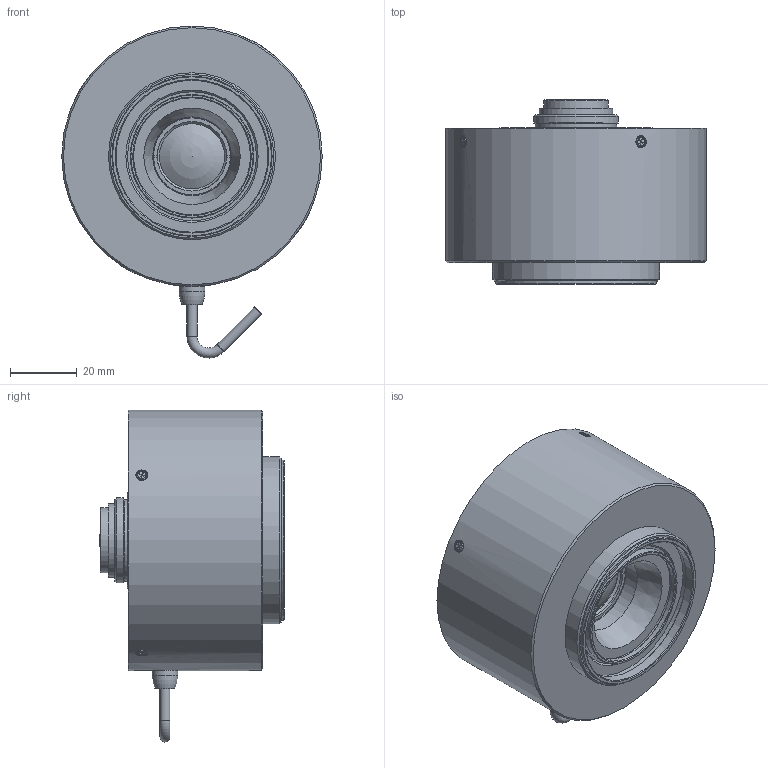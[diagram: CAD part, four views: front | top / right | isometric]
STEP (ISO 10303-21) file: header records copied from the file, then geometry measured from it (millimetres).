
FILE_DESCRIPTION(/* description */ ('Unknown'),/* implementation_level */ '2;1');
FILE_NAME(/* name */ 'VL2520U-MPZ_210607',/* time_stamp */ '2021-06-07T14:59:43+09:00',/* author */ ('Unknown'),/* organization */ ('Unknown'),/* preprocessor_version */ 'ST-DEVELOPER v16.7',/* originating_system */ 'DEX',/* authorisation */ $);
FILE_SCHEMA (('AUTOMOTIVE_DESIGN {1 0 10303 214 3 1 1}'));
Length unit declared in the file: millimetre
Products named in the file (1): VL2520U-MPZ
Bounding box: 78 x 55.34 x 99.4 mm (x, y, z)
Volume: 194716.6 mm3; surface area: 24115.3 mm2
Topology: 1 solids, 14 shells, 413 faces, 1014 edges, 669 vertices
Faces by surface type: plane 284, cylinder 79, cone 37, torus 11, sphere 2
Full cylindrical faces by diameter (mm): 1.7 x3, 1.8 x3, 2 x9, 2.2 x9, 3 x14, 3.5 x3, 3.6 x5, 4 x4, 7.699 x1, 17.25 x1, 19.4 x1, 19.5 x1, 20.8 x1, 22 x1, 23.7 x1, 24.4 x1, 25.4 x1, 35 x1, 35.5 x1, 37 x1, 45.5 x1, 46 x3, 48 x1, 50 x1, 78 x1
Entity records: 14153 total; most frequent: CARTESIAN_POINT 2061, DIRECTION 1857, ORIENTED_EDGE 1706, EDGE_CURVE 853, LINE 631, VECTOR 631, VERTEX_POINT 620, AXIS2_PLACEMENT_3D 613
